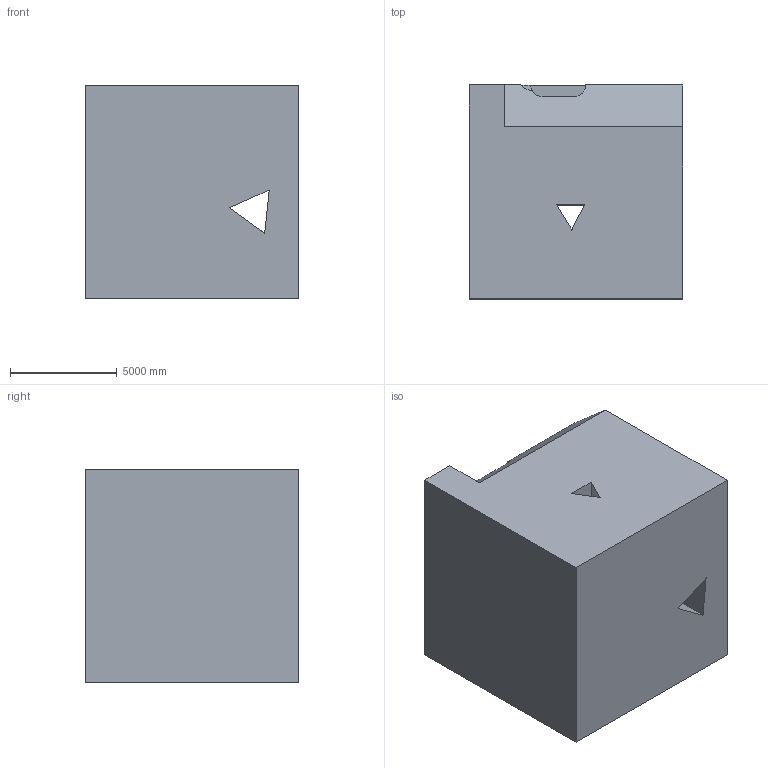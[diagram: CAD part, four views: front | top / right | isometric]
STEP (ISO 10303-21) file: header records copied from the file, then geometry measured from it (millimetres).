
FILE_DESCRIPTION (( 'STEP AP203' ), '1' );
FILE_NAME ('858.STEP', '2022-08-04T16:01:34', ( 'user' ), ( '' ), 'SwSTEP 2.0', 'SolidWorks 2021', '' );
FILE_SCHEMA (( 'CONFIG_CONTROL_DESIGN' ));
Length unit declared in the file: centimetre
Products named in the file (1): 858
Bounding box: 10000 x 10000 x 10000 mm (x, y, z)
Volume: 873024931915.2 mm3; surface area: 836092670.1 mm2
Topology: 1 solids, 1 shells, 52 faces, 150 edges, 100 vertices
Faces by surface type: plane 44, cylinder 8
Entity records: 1888 total; most frequent: CARTESIAN_POINT 453, ORIENTED_EDGE 300, DIRECTION 255, EDGE_CURVE 150, LINE 115, VECTOR 115, VERTEX_POINT 100, AXIS2_PLACEMENT_3D 70
